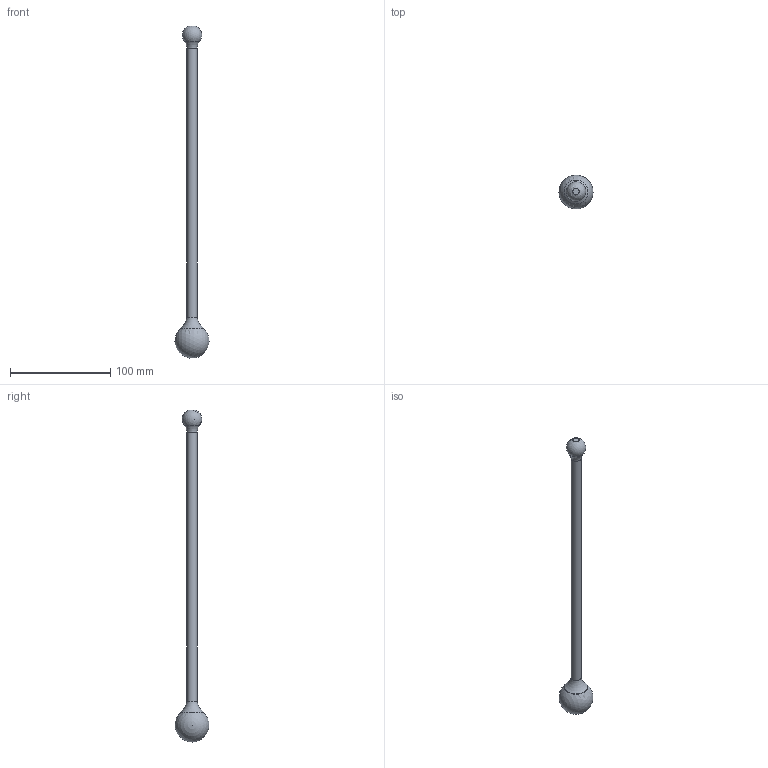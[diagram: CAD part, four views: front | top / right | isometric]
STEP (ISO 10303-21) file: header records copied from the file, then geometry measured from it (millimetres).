
FILE_DESCRIPTION(/* description */ (''),/* implementation_level */ '2;1');
FILE_NAME(/* name */ 'C:\Users\STEFANO\Desktop\3D SEM\1704-20 - STORM SOSPENSIONE MINI F.E\SEM.000027.stp',/* time_stamp */ '2019-09-16T09:17:25+02:00',/* author */ ('STEFANO'),/* organization */ (''),/* preprocessor_version */ 'ST-DEVELOPER v17',/* originating_system */ 'Autodesk Inventor 2019',/* authorisation */ '');
FILE_SCHEMA (('AUTOMOTIVE_DESIGN { 1 0 10303 214 3 1 1 }'));
Length unit declared in the file: millimetre
Products named in the file (5): 16492_ASSY.04 VERS.BARTOLI 2_TOP; 16492_049.02; 16492_048.01; 16492_050.01; 16492_047.02
Assembly tree (4 placements, depth 2):
  16492_ASSY.04 VERS.BARTOLI 2_TOP
    16492_049.02
    16492_048.01
    16492_050.01
    16492_047.02
Bounding box: 34 x 33.75 x 331.22 mm (x, y, z)
Volume: 47034.3 mm3; surface area: 14665.6 mm2
Topology: 4 solids, 4 shells, 13 faces, 32 edges, 24 vertices
Faces by surface type: plane 7, sphere 2, torus 2, cylinder 2
Full cylindrical faces by diameter (mm): 10 x1, 23.6 x1
Entity records: 575 total; most frequent: DIRECTION 98, CARTESIAN_POINT 74, ORIENTED_EDGE 56, AXIS2_PLACEMENT_3D 48, EDGE_CURVE 28, CIRCLE 26, VERTEX_POINT 24, EDGE_LOOP 14
